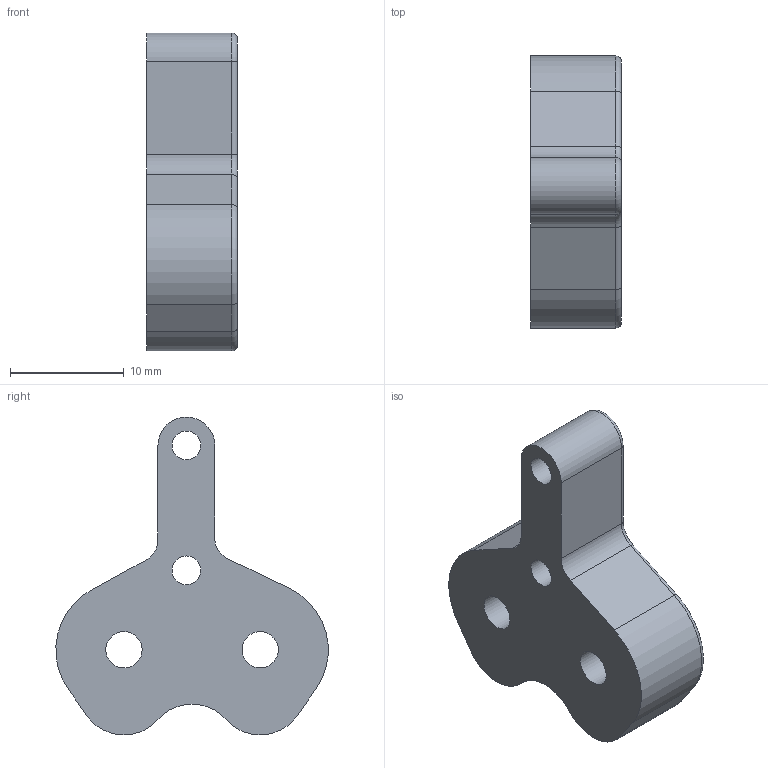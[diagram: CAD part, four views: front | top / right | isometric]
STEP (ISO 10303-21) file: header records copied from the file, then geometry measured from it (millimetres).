
FILE_DESCRIPTION(/* description */ (''),/* implementation_level */ '2;1');
FILE_NAME(/* name */ 'End Stop relocation mount.step',/* time_stamp */ '2023-07-15T19:03:30+02:00',/* author */ (''),/* organization */ (''),/* preprocessor_version */ 'ST-DEVELOPER v19.2',/* originating_system */ 'Autodesk Translation Framework v12.6.0.85',/* authorisation */ '');
FILE_SCHEMA (('AUTOMOTIVE_DESIGN { 1 0 10303 214 3 1 1 }'));
Length unit declared in the file: millimetre
Products named in the file (1): End Stop Mount_new to load into old program Copy
Bounding box: 8 x 23.97 x 28 mm (x, y, z)
Volume: 2342.5 mm3; surface area: 1713.3 mm2
Topology: 1 solids, 1 shells, 42 faces, 98 edges, 60 vertices
Faces by surface type: cylinder 20, torus 10, plane 10, cone 2
Full cylindrical faces by diameter (mm): 2.529 x2, 3.2 x2, 6.5 x2
Entity records: 1250 total; most frequent: DIRECTION 242, CARTESIAN_POINT 201, ORIENTED_EDGE 196, AXIS2_PLACEMENT_3D 101, EDGE_CURVE 98, VERTEX_POINT 60, CIRCLE 58, EDGE_LOOP 52
